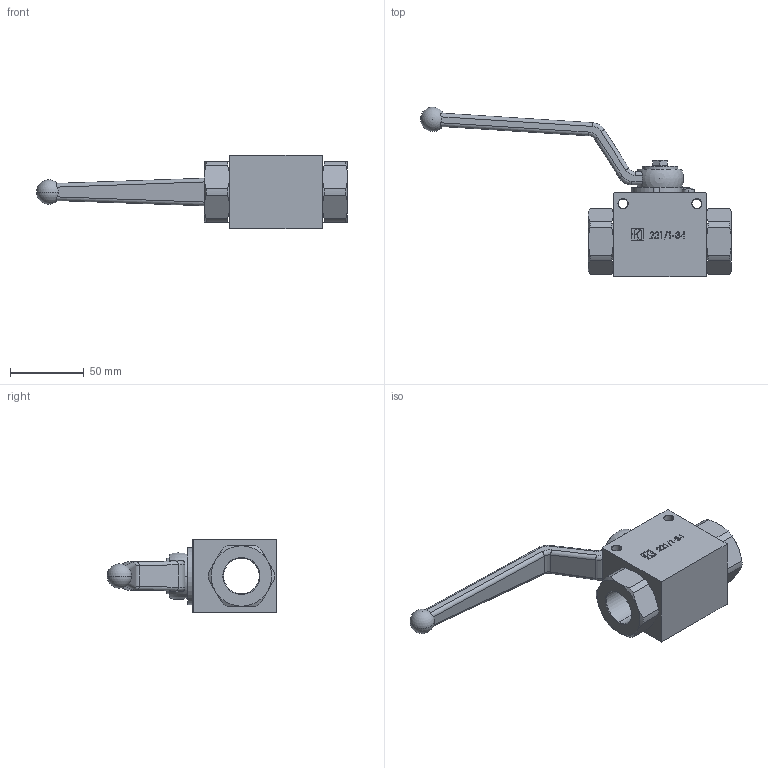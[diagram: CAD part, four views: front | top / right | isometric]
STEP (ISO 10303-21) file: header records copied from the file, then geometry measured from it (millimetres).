
FILE_DESCRIPTION (( 'STEP AP214' ), '1' );
FILE_NAME ('221-1-34.STEP', '2015-05-15T13:19:16', ( '' ), ( '' ), 'SwSTEP 2.0', 'SolidWorks 2014', '' );
FILE_SCHEMA (( 'AUTOMOTIVE_DESIGN' ));
Length unit declared in the file: millimetre
Products named in the file (1): 221-1-34
Bounding box: 210.74 x 114.99 x 50 mm (x, y, z)
Surface area: 38605.4 mm2 (no closed solid volume)
Topology: 0 solids, 6 shells, 204 faces, 620 edges, 410 vertices
Faces by surface type: plane 93, cylinder 49, bspline 31, cone 24, sphere 5, torus 2
Entity records: 10969 total; most frequent: CARTESIAN_POINT 3541, ORIENTED_EDGE 1053, DIRECTION 978, EDGE_CURVE 607, VERTEX_POINT 402, VECTOR 348, LINE 348, AXIS2_PLACEMENT_3D 315
